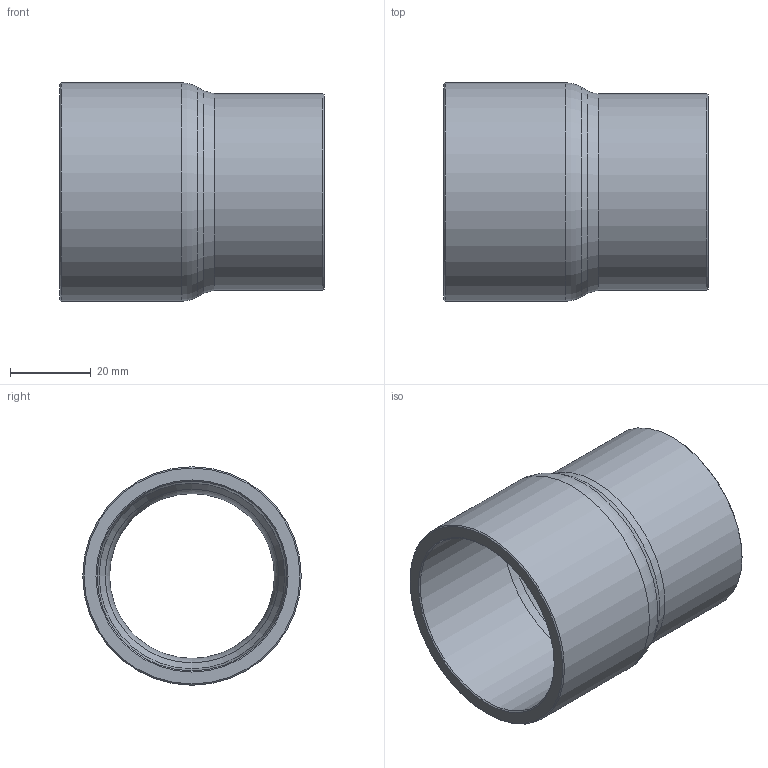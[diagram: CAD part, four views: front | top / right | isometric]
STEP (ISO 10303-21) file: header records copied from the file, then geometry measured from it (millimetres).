
FILE_DESCRIPTION((''),'2;1');
FILE_NAME('G:\SANHA-Ternat\Technik\Management\Bouwmaten + markeringen\z-maattekeningen 3D\29000s\29243218158_3d.stp','2017-08-04T08:20:53',('vdvijverd'),(''),'Autodesk Inventor 2009','Autodesk Inventor 2009','');
FILE_SCHEMA(('AUTOMOTIVE_DESIGN { 1 0 10303 214 1 1 1 1 }'));
Length unit declared in the file: millimetre
Products named in the file (1): 29243218158_3d
Bounding box: 65.3 x 53.97 x 53.97 mm (x, y, z)
Volume: 35689.8 mm3; surface area: 20759.5 mm2
Topology: 1 solids, 1 shells, 17 faces, 32 edges, 17 vertices
Faces by surface type: cone 6, cylinder 4, bspline 3, plane 2, torus 2
Full cylindrical faces by diameter (mm): 41.455 x1, 46.87 x1, 48.655 x1, 53.97 x1
Entity records: 494 total; most frequent: CARTESIAN_POINT 184, DIRECTION 64, ORIENTED_EDGE 34, EDGE_LOOP 34, AXIS2_PLACEMENT_3D 32, VERTEX_POINT 17, CIRCLE 17, EDGE_CURVE 17
